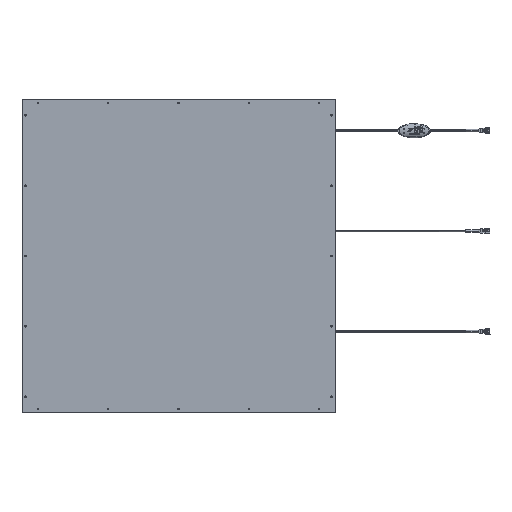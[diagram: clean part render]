
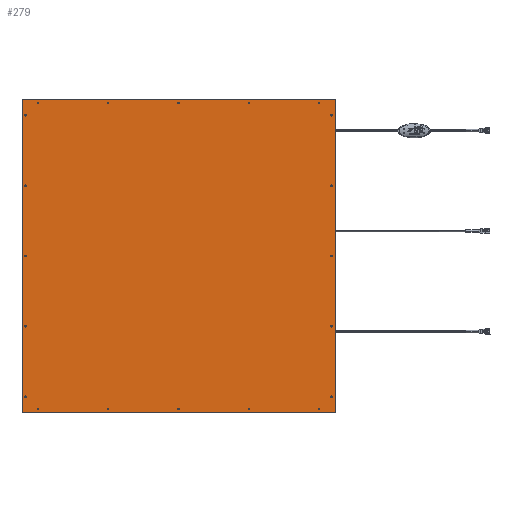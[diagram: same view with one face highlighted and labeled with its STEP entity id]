
A CAD part, top view. The second image highlights one B-rep face of the part: STEP entity #279.
In plain terms, the highlighted planar face has unit normal (0, 0, 1).
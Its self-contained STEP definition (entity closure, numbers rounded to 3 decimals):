
#20=CARTESIAN_POINT('',(311.488,327.187,40.));
#21=DIRECTION('',(1.,0.,0.));
#22=DIRECTION('',(0.,0.,1.));
#23=AXIS2_PLACEMENT_3D('',#20,#22,#21);
#24=PLANE('',#23);
#25=CARTESIAN_POINT('',(-0.012,573.112,40.));
#26=VERTEX_POINT('',#25);
#27=CARTESIAN_POINT('',(622.988,573.112,40.));
#28=VERTEX_POINT('',#27);
#29=CARTESIAN_POINT('',(-0.012,573.112,40.));
#30=DIRECTION('',(1.,0.,0.));
#31=VECTOR('',#30,623.);
#32=LINE('',#29,#31);
#33=EDGE_CURVE('',#26,#28,#32,.T.);
#34=ORIENTED_EDGE('',*,*,#33,.F.);
#35=CARTESIAN_POINT('',(-0.012,-49.888,40.));
#36=VERTEX_POINT('',#35);
#37=CARTESIAN_POINT('',(-0.012,-49.888,40.));
#38=DIRECTION('',(0.,1.,0.));
#39=VECTOR('',#38,623.);
#40=LINE('',#37,#39);
#41=EDGE_CURVE('',#36,#26,#40,.T.);
#42=ORIENTED_EDGE('',*,*,#41,.F.);
#43=CARTESIAN_POINT('',(622.988,-49.888,40.));
#44=VERTEX_POINT('',#43);
#45=CARTESIAN_POINT('',(622.988,-49.888,40.));
#46=DIRECTION('',(-1.,0.,0.));
#47=VECTOR('',#46,623.);
#48=LINE('',#45,#47);
#49=EDGE_CURVE('',#44,#36,#48,.T.);
#50=ORIENTED_EDGE('',*,*,#49,.F.);
#51=CARTESIAN_POINT('',(622.988,573.112,40.));
#52=DIRECTION('',(0.,-1.,0.));
#53=VECTOR('',#52,623.);
#54=LINE('',#51,#53);
#55=EDGE_CURVE('',#28,#44,#54,.T.);
#56=ORIENTED_EDGE('',*,*,#55,.F.);
#57=EDGE_LOOP('',(#34,#42,#50,#56));
#58=FACE_OUTER_BOUND('',#57,.T.);
#59=CARTESIAN_POINT('',(617.488,261.612,40.));
#60=VERTEX_POINT('',#59);
#61=CARTESIAN_POINT('',(615.988,261.612,40.));
#62=DIRECTION('',(1.,0.,0.));
#63=DIRECTION('',(0.,0.,1.));
#64=AXIS2_PLACEMENT_3D('',#61,#63,#62);
#65=CIRCLE('',#64,1.5);
#66=EDGE_CURVE('',#60,#60,#65,.T.);
#67=ORIENTED_EDGE('',*,*,#66,.F.);
#68=EDGE_LOOP('',(#67));
#69=FACE_BOUND('',#68,.T.);
#70=CARTESIAN_POINT('',(617.488,401.612,40.));
#71=VERTEX_POINT('',#70);
#72=CARTESIAN_POINT('',(615.988,401.612,40.));
#73=DIRECTION('',(1.,-0.,0.));
#74=DIRECTION('',(0.,-0.,1.));
#75=AXIS2_PLACEMENT_3D('',#72,#74,#73);
#76=CIRCLE('',#75,1.5);
#77=EDGE_CURVE('',#71,#71,#76,.T.);
#78=ORIENTED_EDGE('',*,*,#77,.F.);
#79=EDGE_LOOP('',(#78));
#80=FACE_BOUND('',#79,.T.);
#81=CARTESIAN_POINT('',(617.488,-18.388,40.));
#82=VERTEX_POINT('',#81);
#83=CARTESIAN_POINT('',(615.988,-18.388,40.));
#84=DIRECTION('',(1.,-0.,0.));
#85=DIRECTION('',(0.,-0.,1.));
#86=AXIS2_PLACEMENT_3D('',#83,#85,#84);
#87=CIRCLE('',#86,1.5);
#88=EDGE_CURVE('',#82,#82,#87,.T.);
#89=ORIENTED_EDGE('',*,*,#88,.F.);
#90=EDGE_LOOP('',(#89));
#91=FACE_BOUND('',#90,.T.);
#92=CARTESIAN_POINT('',(452.988,-42.888,40.));
#93=VERTEX_POINT('',#92);
#94=CARTESIAN_POINT('',(451.488,-42.888,40.));
#95=DIRECTION('',(1.,0.,0.));
#96=DIRECTION('',(0.,0.,1.));
#97=AXIS2_PLACEMENT_3D('',#94,#96,#95);
#98=CIRCLE('',#97,1.5);
#99=EDGE_CURVE('',#93,#93,#98,.T.);
#100=ORIENTED_EDGE('',*,*,#99,.F.);
#101=EDGE_LOOP('',(#100));
#102=FACE_BOUND('',#101,.T.);
#103=CARTESIAN_POINT('',(617.488,541.612,40.));
#104=VERTEX_POINT('',#103);
#105=CARTESIAN_POINT('',(615.988,541.612,40.));
#106=DIRECTION('',(1.,-0.,0.));
#107=DIRECTION('',(0.,-0.,1.));
#108=AXIS2_PLACEMENT_3D('',#105,#107,#106);
#109=CIRCLE('',#108,1.5);
#110=EDGE_CURVE('',#104,#104,#109,.T.);
#111=ORIENTED_EDGE('',*,*,#110,.F.);
#112=EDGE_LOOP('',(#111));
#113=FACE_BOUND('',#112,.T.);
#114=CARTESIAN_POINT('',(32.988,566.112,40.));
#115=VERTEX_POINT('',#114);
#116=CARTESIAN_POINT('',(31.488,566.112,40.));
#117=DIRECTION('',(1.,0.,-0.));
#118=DIRECTION('',(0.,-0.,1.));
#119=AXIS2_PLACEMENT_3D('',#116,#118,#117);
#120=CIRCLE('',#119,1.5);
#121=EDGE_CURVE('',#115,#115,#120,.T.);
#122=ORIENTED_EDGE('',*,*,#121,.F.);
#123=EDGE_LOOP('',(#122));
#124=FACE_BOUND('',#123,.T.);
#125=CARTESIAN_POINT('',(8.488,541.612,40.));
#126=VERTEX_POINT('',#125);
#127=CARTESIAN_POINT('',(6.988,541.612,40.));
#128=DIRECTION('',(1.,0.,0.));
#129=DIRECTION('',(0.,0.,1.));
#130=AXIS2_PLACEMENT_3D('',#127,#129,#128);
#131=CIRCLE('',#130,1.5);
#132=EDGE_CURVE('',#126,#126,#131,.T.);
#133=ORIENTED_EDGE('',*,*,#132,.F.);
#134=EDGE_LOOP('',(#133));
#135=FACE_BOUND('',#134,.T.);
#136=CARTESIAN_POINT('',(452.988,566.112,40.));
#137=VERTEX_POINT('',#136);
#138=CARTESIAN_POINT('',(451.488,566.112,40.));
#139=DIRECTION('',(1.,0.,0.));
#140=DIRECTION('',(0.,0.,1.));
#141=AXIS2_PLACEMENT_3D('',#138,#140,#139);
#142=CIRCLE('',#141,1.5);
#143=EDGE_CURVE('',#137,#137,#142,.T.);
#144=ORIENTED_EDGE('',*,*,#143,.F.);
#145=EDGE_LOOP('',(#144));
#146=FACE_BOUND('',#145,.T.);
#147=CARTESIAN_POINT('',(312.988,566.112,40.));
#148=VERTEX_POINT('',#147);
#149=CARTESIAN_POINT('',(311.488,566.112,40.));
#150=DIRECTION('',(1.,-0.,-0.));
#151=DIRECTION('',(0.,-0.,1.));
#152=AXIS2_PLACEMENT_3D('',#149,#151,#150);
#153=CIRCLE('',#152,1.5);
#154=EDGE_CURVE('',#148,#148,#153,.T.);
#155=ORIENTED_EDGE('',*,*,#154,.F.);
#156=EDGE_LOOP('',(#155));
#157=FACE_BOUND('',#156,.T.);
#158=CARTESIAN_POINT('',(172.988,566.112,40.));
#159=VERTEX_POINT('',#158);
#160=CARTESIAN_POINT('',(171.488,566.112,40.));
#161=DIRECTION('',(1.,-0.,-0.));
#162=DIRECTION('',(0.,-0.,1.));
#163=AXIS2_PLACEMENT_3D('',#160,#162,#161);
#164=CIRCLE('',#163,1.5);
#165=EDGE_CURVE('',#159,#159,#164,.T.);
#166=ORIENTED_EDGE('',*,*,#165,.F.);
#167=EDGE_LOOP('',(#166));
#168=FACE_BOUND('',#167,.T.);
#169=CARTESIAN_POINT('',(592.988,566.112,40.));
#170=VERTEX_POINT('',#169);
#171=CARTESIAN_POINT('',(591.488,566.112,40.));
#172=DIRECTION('',(1.,0.,0.));
#173=DIRECTION('',(0.,0.,1.));
#174=AXIS2_PLACEMENT_3D('',#171,#173,#172);
#175=CIRCLE('',#174,1.5);
#176=EDGE_CURVE('',#170,#170,#175,.T.);
#177=ORIENTED_EDGE('',*,*,#176,.F.);
#178=EDGE_LOOP('',(#177));
#179=FACE_BOUND('',#178,.T.);
#180=CARTESIAN_POINT('',(8.488,121.612,40.));
#181=VERTEX_POINT('',#180);
#182=CARTESIAN_POINT('',(6.988,121.612,40.));
#183=DIRECTION('',(1.,0.,0.));
#184=DIRECTION('',(0.,0.,1.));
#185=AXIS2_PLACEMENT_3D('',#182,#184,#183);
#186=CIRCLE('',#185,1.5);
#187=EDGE_CURVE('',#181,#181,#186,.T.);
#188=ORIENTED_EDGE('',*,*,#187,.F.);
#189=EDGE_LOOP('',(#188));
#190=FACE_BOUND('',#189,.T.);
#191=CARTESIAN_POINT('',(312.988,-42.888,40.));
#192=VERTEX_POINT('',#191);
#193=CARTESIAN_POINT('',(311.488,-42.888,40.));
#194=DIRECTION('',(1.,0.,0.));
#195=DIRECTION('',(0.,0.,1.));
#196=AXIS2_PLACEMENT_3D('',#193,#195,#194);
#197=CIRCLE('',#196,1.5);
#198=EDGE_CURVE('',#192,#192,#197,.T.);
#199=ORIENTED_EDGE('',*,*,#198,.F.);
#200=EDGE_LOOP('',(#199));
#201=FACE_BOUND('',#200,.T.);
#202=CARTESIAN_POINT('',(592.988,-42.888,40.));
#203=VERTEX_POINT('',#202);
#204=CARTESIAN_POINT('',(591.488,-42.888,40.));
#205=DIRECTION('',(1.,0.,0.));
#206=DIRECTION('',(0.,0.,1.));
#207=AXIS2_PLACEMENT_3D('',#204,#206,#205);
#208=CIRCLE('',#207,1.5);
#209=EDGE_CURVE('',#203,#203,#208,.T.);
#210=ORIENTED_EDGE('',*,*,#209,.F.);
#211=EDGE_LOOP('',(#210));
#212=FACE_BOUND('',#211,.T.);
#213=CARTESIAN_POINT('',(32.988,-42.888,40.));
#214=VERTEX_POINT('',#213);
#215=CARTESIAN_POINT('',(31.488,-42.888,40.));
#216=DIRECTION('',(1.,0.,0.));
#217=DIRECTION('',(0.,0.,1.));
#218=AXIS2_PLACEMENT_3D('',#215,#217,#216);
#219=CIRCLE('',#218,1.5);
#220=EDGE_CURVE('',#214,#214,#219,.T.);
#221=ORIENTED_EDGE('',*,*,#220,.F.);
#222=EDGE_LOOP('',(#221));
#223=FACE_BOUND('',#222,.T.);
#224=CARTESIAN_POINT('',(8.488,-18.388,40.));
#225=VERTEX_POINT('',#224);
#226=CARTESIAN_POINT('',(6.988,-18.388,40.));
#227=DIRECTION('',(1.,0.,0.));
#228=DIRECTION('',(0.,0.,1.));
#229=AXIS2_PLACEMENT_3D('',#226,#228,#227);
#230=CIRCLE('',#229,1.5);
#231=EDGE_CURVE('',#225,#225,#230,.T.);
#232=ORIENTED_EDGE('',*,*,#231,.F.);
#233=EDGE_LOOP('',(#232));
#234=FACE_BOUND('',#233,.T.);
#235=CARTESIAN_POINT('',(172.988,-42.888,40.));
#236=VERTEX_POINT('',#235);
#237=CARTESIAN_POINT('',(171.488,-42.888,40.));
#238=DIRECTION('',(1.,-0.,-0.));
#239=DIRECTION('',(0.,-0.,1.));
#240=AXIS2_PLACEMENT_3D('',#237,#239,#238);
#241=CIRCLE('',#240,1.5);
#242=EDGE_CURVE('',#236,#236,#241,.T.);
#243=ORIENTED_EDGE('',*,*,#242,.F.);
#244=EDGE_LOOP('',(#243));
#245=FACE_BOUND('',#244,.T.);
#246=CARTESIAN_POINT('',(617.488,121.612,40.));
#247=VERTEX_POINT('',#246);
#248=CARTESIAN_POINT('',(615.988,121.612,40.));
#249=DIRECTION('',(1.,-0.,0.));
#250=DIRECTION('',(0.,-0.,1.));
#251=AXIS2_PLACEMENT_3D('',#248,#250,#249);
#252=CIRCLE('',#251,1.5);
#253=EDGE_CURVE('',#247,#247,#252,.T.);
#254=ORIENTED_EDGE('',*,*,#253,.F.);
#255=EDGE_LOOP('',(#254));
#256=FACE_BOUND('',#255,.T.);
#257=CARTESIAN_POINT('',(8.488,401.612,40.));
#258=VERTEX_POINT('',#257);
#259=CARTESIAN_POINT('',(6.988,401.612,40.));
#260=DIRECTION('',(1.,0.,0.));
#261=DIRECTION('',(0.,0.,1.));
#262=AXIS2_PLACEMENT_3D('',#259,#261,#260);
#263=CIRCLE('',#262,1.5);
#264=EDGE_CURVE('',#258,#258,#263,.T.);
#265=ORIENTED_EDGE('',*,*,#264,.F.);
#266=EDGE_LOOP('',(#265));
#267=FACE_BOUND('',#266,.T.);
#268=CARTESIAN_POINT('',(8.488,261.612,40.));
#269=VERTEX_POINT('',#268);
#270=CARTESIAN_POINT('',(6.988,261.612,40.));
#271=DIRECTION('',(1.,0.,0.));
#272=DIRECTION('',(0.,0.,1.));
#273=AXIS2_PLACEMENT_3D('',#270,#272,#271);
#274=CIRCLE('',#273,1.5);
#275=EDGE_CURVE('',#269,#269,#274,.T.);
#276=ORIENTED_EDGE('',*,*,#275,.F.);
#277=EDGE_LOOP('',(#276));
#278=FACE_BOUND('',#277,.T.);
#279=ADVANCED_FACE('',(#58,#69,#80,#91,#102,#113,#124,#135,#146,#157,#168,#179,#190,#201,#212,#223,#234,#245,#256,#267,#278),#24,.T.);
